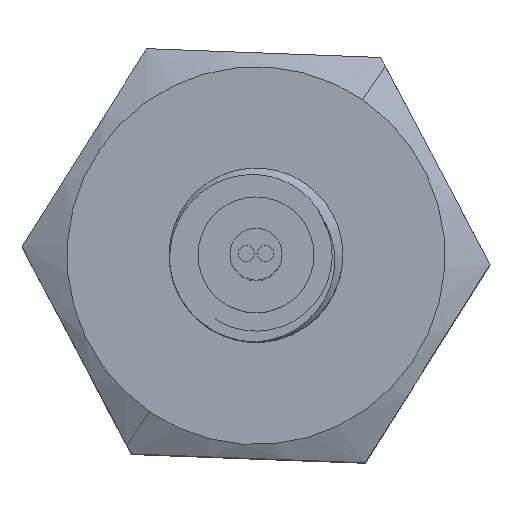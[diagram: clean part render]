
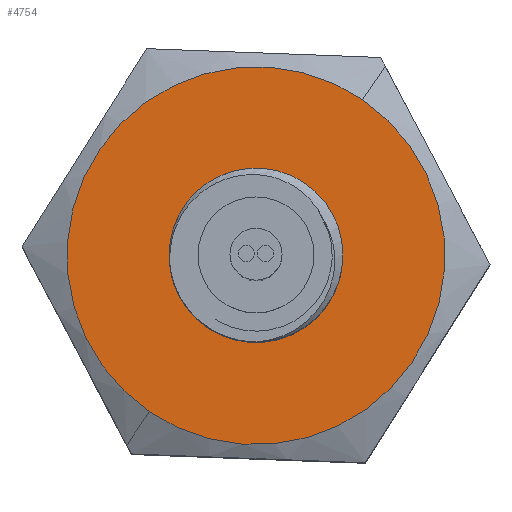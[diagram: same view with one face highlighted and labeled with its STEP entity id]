
A CAD part, top view. The second image highlights one B-rep face of the part: STEP entity #4754.
In plain terms, the highlighted planar face has unit normal (0, 0, 1).
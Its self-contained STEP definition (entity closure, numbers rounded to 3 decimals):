
#237 = EDGE_CURVE ( 'NONE', #6140, #2826, #16054, .T. ) ;
#1367 = EDGE_LOOP ( 'NONE', ( #17126, #11573 ) ) ;
#2224 = CIRCLE ( 'NONE', #9684, 1.5 ) ;
#2494 = CARTESIAN_POINT ( 'NONE',  ( 0., 0., 9.981 ) ) ;
#2826 = VERTEX_POINT ( 'NONE', #18617 ) ;
#3046 = AXIS2_PLACEMENT_3D ( 'NONE', #2494, #18238, #15252 ) ;
#3384 = FACE_OUTER_BOUND ( 'NONE', #9338, .T. ) ;
#3501 = EDGE_CURVE ( 'NONE', #2826, #6140, #8338, .T. ) ;
#3700 = PLANE ( 'NONE',  #3046 ) ;
#4281 = CIRCLE ( 'NONE', #9491, 1.5 ) ;
#4408 = VERTEX_POINT ( 'NONE', #15489 ) ;
#4479 = DIRECTION ( 'NONE',  ( 0., 0., -1. ) ) ;
#4754 = ADVANCED_FACE ( 'NONE', ( #8093, #3384 ), #3700, .F. ) ;
#6140 = VERTEX_POINT ( 'NONE', #12823 ) ;
#8093 = FACE_BOUND ( 'NONE', #1367, .T. ) ;
#8338 = CIRCLE ( 'NONE', #17581, 3.261 ) ;
#8552 = DIRECTION ( 'NONE',  ( 0.564, 0.826, 0. ) ) ;
#8733 = DIRECTION ( 'NONE',  ( 0.564, 0.826, 0. ) ) ;
#8805 = EDGE_CURVE ( 'NONE', #4408, #14116, #4281, .T. ) ;
#9158 = DIRECTION ( 'NONE',  ( 0., 0., -1. ) ) ;
#9195 = DIRECTION ( 'NONE',  ( 0., 0., -1. ) ) ;
#9338 = EDGE_LOOP ( 'NONE', ( #14192, #10294 ) ) ;
#9491 = AXIS2_PLACEMENT_3D ( 'NONE', #15833, #4479, #8552 ) ;
#9684 = AXIS2_PLACEMENT_3D ( 'NONE', #11365, #14448, #8733 ) ;
#10294 = ORIENTED_EDGE ( 'NONE', *, *, #237, .F. ) ;
#11226 = EDGE_CURVE ( 'NONE', #14116, #4408, #2224, .T. ) ;
#11365 = CARTESIAN_POINT ( 'NONE',  ( 0., 0., 9.981 ) ) ;
#11573 = ORIENTED_EDGE ( 'NONE', *, *, #8805, .T. ) ;
#12823 = CARTESIAN_POINT ( 'NONE',  ( -1.839, -2.693, 9.981 ) ) ;
#12902 = CARTESIAN_POINT ( 'NONE',  ( -0.846, -1.239, 9.981 ) ) ;
#14116 = VERTEX_POINT ( 'NONE', #12902 ) ;
#14192 = ORIENTED_EDGE ( 'NONE', *, *, #3501, .F. ) ;
#14448 = DIRECTION ( 'NONE',  ( 0., 0., -1. ) ) ;
#14480 = CARTESIAN_POINT ( 'NONE',  ( 0., 0., 9.981 ) ) ;
#15252 = DIRECTION ( 'NONE',  ( 0.564, 0.826, 0. ) ) ;
#15489 = CARTESIAN_POINT ( 'NONE',  ( 0.846, 1.239, 9.981 ) ) ;
#15833 = CARTESIAN_POINT ( 'NONE',  ( 0., 0., 9.981 ) ) ;
#16048 = DIRECTION ( 'NONE',  ( 0.564, 0.826, 0. ) ) ;
#16054 = CIRCLE ( 'NONE', #16871, 3.261 ) ;
#16303 = CARTESIAN_POINT ( 'NONE',  ( 0., 0., 9.981 ) ) ;
#16871 = AXIS2_PLACEMENT_3D ( 'NONE', #14480, #9195, #17289 ) ;
#17126 = ORIENTED_EDGE ( 'NONE', *, *, #11226, .T. ) ;
#17289 = DIRECTION ( 'NONE',  ( 0.564, 0.826, 0. ) ) ;
#17581 = AXIS2_PLACEMENT_3D ( 'NONE', #16303, #9158, #16048 ) ;
#18238 = DIRECTION ( 'NONE',  ( 0., 0., -1. ) ) ;
#18617 = CARTESIAN_POINT ( 'NONE',  ( 1.839, 2.693, 9.981 ) ) ;
